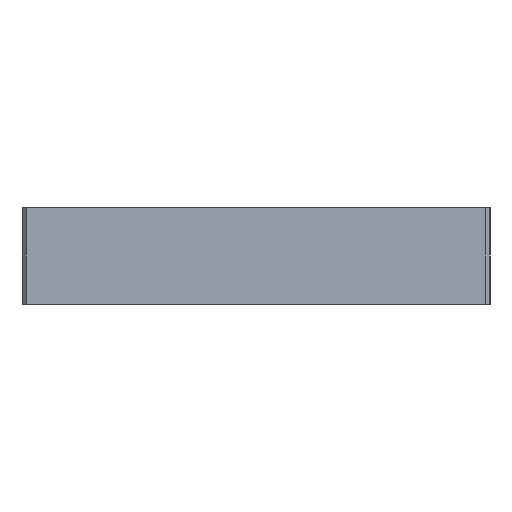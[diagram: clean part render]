
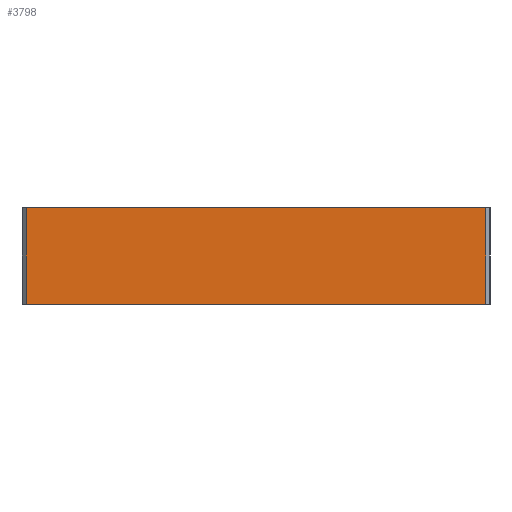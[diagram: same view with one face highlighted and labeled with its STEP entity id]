
A CAD part, left-side view. The second image highlights one B-rep face of the part: STEP entity #3798.
In plain terms, the highlighted planar face has unit normal (-1, 0, 0).
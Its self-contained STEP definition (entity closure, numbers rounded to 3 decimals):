
#548=FACE_OUTER_BOUND('',#770,.T.);
#770=EDGE_LOOP('',(#3388,#3389,#3390,#3391));
#1086=LINE('',#6857,#1424);
#1093=LINE('',#6881,#1431);
#1095=LINE('',#6885,#1433);
#1096=LINE('',#6886,#1434);
#1424=VECTOR('',#4392,10.);
#1431=VECTOR('',#4415,10.);
#1433=VECTOR('',#4419,10.);
#1434=VECTOR('',#4420,10.);
#1803=VERTEX_POINT('',#6853);
#1805=VERTEX_POINT('',#6856);
#1814=VERTEX_POINT('',#6879);
#1815=VERTEX_POINT('',#6884);
#2338=EDGE_CURVE('',#1805,#1803,#1086,.T.);
#2348=EDGE_CURVE('',#1814,#1803,#1093,.T.);
#2350=EDGE_CURVE('',#1814,#1815,#1095,.T.);
#2351=EDGE_CURVE('',#1805,#1815,#1096,.T.);
#3388=ORIENTED_EDGE('',*,*,#2348,.F.);
#3389=ORIENTED_EDGE('',*,*,#2350,.T.);
#3390=ORIENTED_EDGE('',*,*,#2351,.F.);
#3391=ORIENTED_EDGE('',*,*,#2338,.T.);
#3601=PLANE('',#3925);
#3798=ADVANCED_FACE('',(#548),#3601,.T.);
#3925=AXIS2_PLACEMENT_3D('',#6883,#4417,#4418);
#4392=DIRECTION('',(0.,-1.,0.));
#4415=DIRECTION('',(0.,0.,-1.));
#4417=DIRECTION('center_axis',(-1.,0.,0.));
#4418=DIRECTION('ref_axis',(0.,0.,1.));
#4419=DIRECTION('',(0.,1.,0.));
#4420=DIRECTION('',(0.,0.,1.));
#6853=CARTESIAN_POINT('',(-56.247,-24.383,0.));
#6856=CARTESIAN_POINT('',(-56.247,32.617,0.));
#6857=CARTESIAN_POINT('',(-56.247,33.117,0.));
#6879=CARTESIAN_POINT('',(-56.247,-24.383,12.));
#6881=CARTESIAN_POINT('',(-56.247,-24.383,0.));
#6883=CARTESIAN_POINT('Origin',(-56.247,-24.883,0.));
#6884=CARTESIAN_POINT('',(-56.247,32.617,12.));
#6885=CARTESIAN_POINT('',(-56.247,33.117,12.));
#6886=CARTESIAN_POINT('',(-56.247,32.617,0.));
